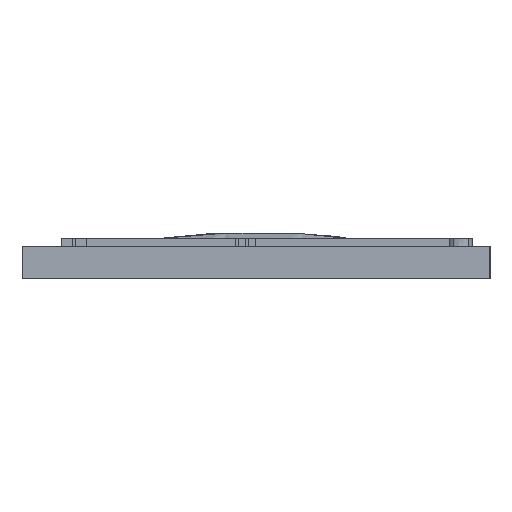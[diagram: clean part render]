
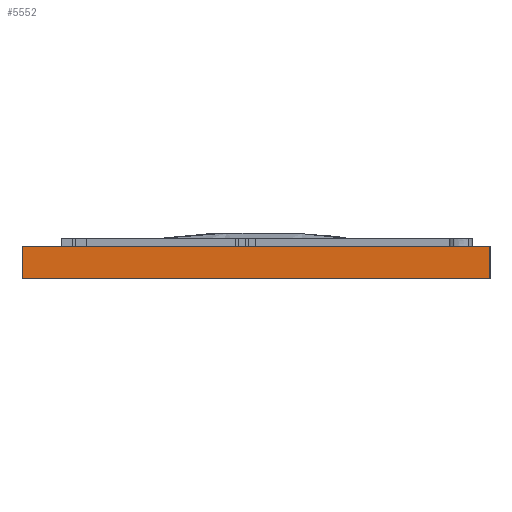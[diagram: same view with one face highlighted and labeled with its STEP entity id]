
A CAD part, left-side view. The second image highlights one B-rep face of the part: STEP entity #5552.
In plain terms, the highlighted planar face has unit normal (-1, 0, 0).
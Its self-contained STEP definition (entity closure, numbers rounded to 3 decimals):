
#32 = PLANE('',#33);
#33 = AXIS2_PLACEMENT_3D('',#34,#35,#36);
#34 = CARTESIAN_POINT('',(82.,29.,4.));
#35 = DIRECTION('',(0.,0.,1.));
#36 = DIRECTION('',(1.,0.,0.));
#741 = VERTEX_POINT('',#742);
#742 = CARTESIAN_POINT('',(0.,0.,4.));
#758 = PLANE('',#759);
#759 = AXIS2_PLACEMENT_3D('',#760,#761,#762);
#760 = CARTESIAN_POINT('',(0.,0.,0.));
#761 = DIRECTION('',(0.,1.,0.));
#762 = DIRECTION('',(1.,0.,0.));
#799 = VERTEX_POINT('',#800);
#800 = CARTESIAN_POINT('',(0.,58.,4.));
#814 = PLANE('',#815);
#815 = AXIS2_PLACEMENT_3D('',#816,#817,#818);
#816 = CARTESIAN_POINT('',(164.,58.,0.));
#817 = DIRECTION('',(0.,-1.,0.));
#818 = DIRECTION('',(-1.,0.,0.));
#826 = EDGE_CURVE('',#799,#741,#827,.T.);
#827 = SURFACE_CURVE('',#828,(#832,#839),.PCURVE_S1.);
#828 = LINE('',#829,#830);
#829 = CARTESIAN_POINT('',(0.,58.,4.));
#830 = VECTOR('',#831,1.);
#831 = DIRECTION('',(0.,-1.,0.));
#832 = PCURVE('',#32,#833);
#833 = DEFINITIONAL_REPRESENTATION('',(#834),#838);
#834 = LINE('',#835,#836);
#835 = CARTESIAN_POINT('',(-82.,29.));
#836 = VECTOR('',#837,1.);
#837 = DIRECTION('',(0.,-1.));
#838 = ( GEOMETRIC_REPRESENTATION_CONTEXT(2) 
PARAMETRIC_REPRESENTATION_CONTEXT() REPRESENTATION_CONTEXT('2D SPACE',''
  ) );
#839 = PCURVE('',#840,#845);
#840 = PLANE('',#841);
#841 = AXIS2_PLACEMENT_3D('',#842,#843,#844);
#842 = CARTESIAN_POINT('',(0.,58.,0.));
#843 = DIRECTION('',(1.,0.,0.));
#844 = DIRECTION('',(0.,-1.,0.));
#845 = DEFINITIONAL_REPRESENTATION('',(#846),#850);
#846 = LINE('',#847,#848);
#847 = CARTESIAN_POINT('',(0.,-4.));
#848 = VECTOR('',#849,1.);
#849 = DIRECTION('',(1.,0.));
#850 = ( GEOMETRIC_REPRESENTATION_CONTEXT(2) 
PARAMETRIC_REPRESENTATION_CONTEXT() REPRESENTATION_CONTEXT('2D SPACE',''
  ) );
#5480 = EDGE_CURVE('',#5481,#741,#5483,.T.);
#5481 = VERTEX_POINT('',#5482);
#5482 = CARTESIAN_POINT('',(0.,0.,0.));
#5483 = SURFACE_CURVE('',#5484,(#5488,#5495),.PCURVE_S1.);
#5484 = LINE('',#5485,#5486);
#5485 = CARTESIAN_POINT('',(0.,0.,0.));
#5486 = VECTOR('',#5487,1.);
#5487 = DIRECTION('',(0.,0.,1.));
#5488 = PCURVE('',#758,#5489);
#5489 = DEFINITIONAL_REPRESENTATION('',(#5490),#5494);
#5490 = LINE('',#5491,#5492);
#5491 = CARTESIAN_POINT('',(0.,0.));
#5492 = VECTOR('',#5493,1.);
#5493 = DIRECTION('',(0.,-1.));
#5494 = ( GEOMETRIC_REPRESENTATION_CONTEXT(2) 
PARAMETRIC_REPRESENTATION_CONTEXT() REPRESENTATION_CONTEXT('2D SPACE',''
  ) );
#5495 = PCURVE('',#840,#5496);
#5496 = DEFINITIONAL_REPRESENTATION('',(#5497),#5501);
#5497 = LINE('',#5498,#5499);
#5498 = CARTESIAN_POINT('',(58.,0.));
#5499 = VECTOR('',#5500,1.);
#5500 = DIRECTION('',(0.,-1.));
#5501 = ( GEOMETRIC_REPRESENTATION_CONTEXT(2) 
PARAMETRIC_REPRESENTATION_CONTEXT() REPRESENTATION_CONTEXT('2D SPACE',''
  ) );
#5541 = PLANE('',#5542);
#5542 = AXIS2_PLACEMENT_3D('',#5543,#5544,#5545);
#5543 = CARTESIAN_POINT('',(82.,29.,0.));
#5544 = DIRECTION('',(0.,0.,1.));
#5545 = DIRECTION('',(1.,0.,0.));
#5552 = ADVANCED_FACE('',(#5553),#840,.F.);
#5553 = FACE_BOUND('',#5554,.F.);
#5554 = EDGE_LOOP('',(#5555,#5578,#5579,#5580));
#5555 = ORIENTED_EDGE('',*,*,#5556,.T.);
#5556 = EDGE_CURVE('',#5557,#799,#5559,.T.);
#5557 = VERTEX_POINT('',#5558);
#5558 = CARTESIAN_POINT('',(0.,58.,0.));
#5559 = SURFACE_CURVE('',#5560,(#5564,#5571),.PCURVE_S1.);
#5560 = LINE('',#5561,#5562);
#5561 = CARTESIAN_POINT('',(0.,58.,0.));
#5562 = VECTOR('',#5563,1.);
#5563 = DIRECTION('',(0.,0.,1.));
#5564 = PCURVE('',#840,#5565);
#5565 = DEFINITIONAL_REPRESENTATION('',(#5566),#5570);
#5566 = LINE('',#5567,#5568);
#5567 = CARTESIAN_POINT('',(0.,0.));
#5568 = VECTOR('',#5569,1.);
#5569 = DIRECTION('',(0.,-1.));
#5570 = ( GEOMETRIC_REPRESENTATION_CONTEXT(2) 
PARAMETRIC_REPRESENTATION_CONTEXT() REPRESENTATION_CONTEXT('2D SPACE',''
  ) );
#5571 = PCURVE('',#814,#5572);
#5572 = DEFINITIONAL_REPRESENTATION('',(#5573),#5577);
#5573 = LINE('',#5574,#5575);
#5574 = CARTESIAN_POINT('',(164.,0.));
#5575 = VECTOR('',#5576,1.);
#5576 = DIRECTION('',(0.,-1.));
#5577 = ( GEOMETRIC_REPRESENTATION_CONTEXT(2) 
PARAMETRIC_REPRESENTATION_CONTEXT() REPRESENTATION_CONTEXT('2D SPACE',''
  ) );
#5578 = ORIENTED_EDGE('',*,*,#826,.T.);
#5579 = ORIENTED_EDGE('',*,*,#5480,.F.);
#5580 = ORIENTED_EDGE('',*,*,#5581,.F.);
#5581 = EDGE_CURVE('',#5557,#5481,#5582,.T.);
#5582 = SURFACE_CURVE('',#5583,(#5587,#5594),.PCURVE_S1.);
#5583 = LINE('',#5584,#5585);
#5584 = CARTESIAN_POINT('',(0.,58.,0.));
#5585 = VECTOR('',#5586,1.);
#5586 = DIRECTION('',(0.,-1.,0.));
#5587 = PCURVE('',#840,#5588);
#5588 = DEFINITIONAL_REPRESENTATION('',(#5589),#5593);
#5589 = LINE('',#5590,#5591);
#5590 = CARTESIAN_POINT('',(0.,0.));
#5591 = VECTOR('',#5592,1.);
#5592 = DIRECTION('',(1.,0.));
#5593 = ( GEOMETRIC_REPRESENTATION_CONTEXT(2) 
PARAMETRIC_REPRESENTATION_CONTEXT() REPRESENTATION_CONTEXT('2D SPACE',''
  ) );
#5594 = PCURVE('',#5541,#5595);
#5595 = DEFINITIONAL_REPRESENTATION('',(#5596),#5600);
#5596 = LINE('',#5597,#5598);
#5597 = CARTESIAN_POINT('',(-82.,29.));
#5598 = VECTOR('',#5599,1.);
#5599 = DIRECTION('',(0.,-1.));
#5600 = ( GEOMETRIC_REPRESENTATION_CONTEXT(2) 
PARAMETRIC_REPRESENTATION_CONTEXT() REPRESENTATION_CONTEXT('2D SPACE',''
  ) );
